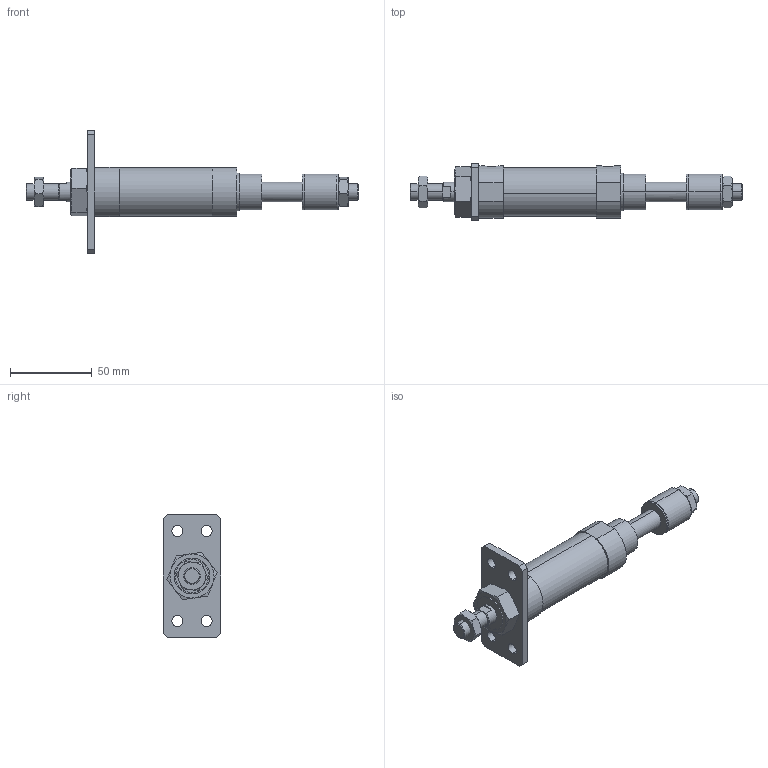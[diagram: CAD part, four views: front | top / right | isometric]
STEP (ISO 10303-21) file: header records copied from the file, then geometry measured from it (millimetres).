
FILE_DESCRIPTION (( 'STEP AP203' ), '1' );
FILE_NAME ('JGA7-25-25-A.STEP', '2016-04-20T01:21:27', ( '' ), ( '' ), 'SwSTEP 2.0', 'SolidWorks 2014', '' );
FILE_SCHEMA (( 'CONFIG_CONTROL_DESIGN' ));
Length unit declared in the file: millimetre
Products named in the file (8): M22x1.5-10mm; JGA7-25A-25; JGA7-25-25-A; JGLH2-25B; JGA7-25-Turn; J#2-25-A; 25-25; M10x1.5-6mm
Assembly tree (8 placements, depth 2):
  JGA7-25-25-A
    JGLH2-25B
    25-25
    JGA7-25A-25
    M10x1.5-6mm  x2
    M22x1.5-10mm
    J#2-25-A
    JGA7-25-Turn
Bounding box: 203 x 35 x 75 mm (x, y, z)
Volume: 101584.3 mm3; surface area: 31670.5 mm2
Topology: 8 solids, 8 shells, 169 faces, 378 edges, 232 vertices
Faces by surface type: plane 67, cylinder 52, torus 38, cone 12
Entity records: 5290 total; most frequent: CARTESIAN_POINT 1124, DIRECTION 722, ORIENTED_EDGE 652, EDGE_CURVE 326, AXIS2_PLACEMENT_3D 298, VERTEX_POINT 204, EDGE_LOOP 174, ADVANCED_FACE 147
